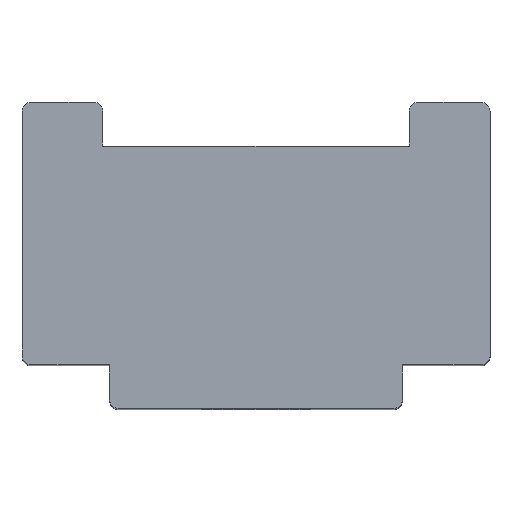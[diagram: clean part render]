
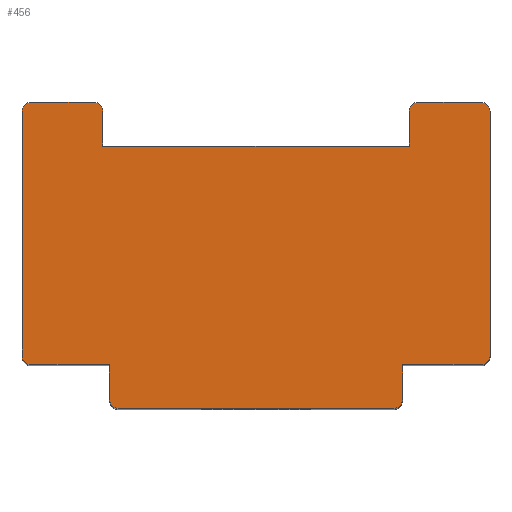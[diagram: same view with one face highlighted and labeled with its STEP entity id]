
A CAD part, top view. The second image highlights one B-rep face of the part: STEP entity #456.
In plain terms, the highlighted planar face has unit normal (0, 0, 1).
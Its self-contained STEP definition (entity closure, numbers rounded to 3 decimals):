
#47=PLANE('',#497);
#52=VECTOR('',#509,1.);
#67=VECTOR('',#544,1.);
#70=VECTOR('',#552,1.);
#73=VECTOR('',#560,1.);
#77=VECTOR('',#569,1.);
#80=VECTOR('',#577,1.);
#85=VECTOR('',#591,1.);
#86=VECTOR('',#599,1.);
#87=VECTOR('',#601,1.);
#88=VECTOR('',#603,1.);
#90=VECTOR('',#606,1.);
#91=VECTOR('',#608,1.);
#96=LINE('',#624,#52);
#111=LINE('',#670,#67);
#114=LINE('',#678,#70);
#117=LINE('',#686,#73);
#121=LINE('',#696,#77);
#124=LINE('',#704,#80);
#129=LINE('',#718,#85);
#130=LINE('',#725,#86);
#131=LINE('',#727,#87);
#132=LINE('',#729,#88);
#134=LINE('',#733,#90);
#135=LINE('',#735,#91);
#136=VERTEX_POINT('',#612);
#137=VERTEX_POINT('',#613);
#141=VERTEX_POINT('',#623);
#159=VERTEX_POINT('',#663);
#160=VERTEX_POINT('',#664);
#161=VERTEX_POINT('',#669);
#162=VERTEX_POINT('',#673);
#163=VERTEX_POINT('',#677);
#164=VERTEX_POINT('',#681);
#165=VERTEX_POINT('',#685);
#166=VERTEX_POINT('',#689);
#167=VERTEX_POINT('',#690);
#168=VERTEX_POINT('',#695);
#169=VERTEX_POINT('',#699);
#170=VERTEX_POINT('',#700);
#171=VERTEX_POINT('',#705);
#172=VERTEX_POINT('',#709);
#173=VERTEX_POINT('',#713);
#174=VERTEX_POINT('',#714);
#177=VERTEX_POINT('',#730);
#178=CIRCLE('',#458,0.254);
#187=CIRCLE('',#470,0.254);
#188=CIRCLE('',#473,0.254);
#189=CIRCLE('',#476,0.254);
#190=CIRCLE('',#479,0.254);
#191=CIRCLE('',#482,0.254);
#192=CIRCLE('',#485,0.254);
#193=CIRCLE('',#487,0.254);
#196=EDGE_CURVE('',#136,#137,#178,.T.);
#202=EDGE_CURVE('',#141,#136,#96,.T.);
#221=EDGE_CURVE('',#159,#160,#187,.T.);
#225=EDGE_CURVE('',#161,#159,#111,.T.);
#226=EDGE_CURVE('',#162,#161,#188,.T.);
#229=EDGE_CURVE('',#163,#162,#114,.T.);
#230=EDGE_CURVE('',#164,#163,#189,.T.);
#233=EDGE_CURVE('',#165,#164,#117,.T.);
#234=EDGE_CURVE('',#166,#167,#190,.T.);
#238=EDGE_CURVE('',#168,#166,#121,.T.);
#239=EDGE_CURVE('',#169,#170,#191,.T.);
#242=EDGE_CURVE('',#170,#171,#124,.T.);
#244=EDGE_CURVE('',#171,#172,#192,.T.);
#246=EDGE_CURVE('',#173,#174,#193,.T.);
#249=EDGE_CURVE('',#174,#165,#129,.T.);
#252=EDGE_CURVE('',#172,#168,#130,.T.);
#253=EDGE_CURVE('',#167,#173,#131,.T.);
#254=EDGE_CURVE('',#160,#177,#132,.T.);
#256=EDGE_CURVE('',#177,#141,#134,.T.);
#257=EDGE_CURVE('',#137,#169,#135,.T.);
#362=ORIENTED_EDGE('',*,*,#196,.F.);
#363=ORIENTED_EDGE('',*,*,#202,.F.);
#364=ORIENTED_EDGE('',*,*,#256,.F.);
#365=ORIENTED_EDGE('',*,*,#254,.F.);
#366=ORIENTED_EDGE('',*,*,#221,.F.);
#367=ORIENTED_EDGE('',*,*,#225,.F.);
#368=ORIENTED_EDGE('',*,*,#226,.F.);
#369=ORIENTED_EDGE('',*,*,#229,.F.);
#370=ORIENTED_EDGE('',*,*,#230,.F.);
#371=ORIENTED_EDGE('',*,*,#233,.F.);
#372=ORIENTED_EDGE('',*,*,#249,.F.);
#373=ORIENTED_EDGE('',*,*,#246,.F.);
#374=ORIENTED_EDGE('',*,*,#253,.F.);
#375=ORIENTED_EDGE('',*,*,#234,.F.);
#376=ORIENTED_EDGE('',*,*,#238,.F.);
#377=ORIENTED_EDGE('',*,*,#252,.F.);
#378=ORIENTED_EDGE('',*,*,#244,.F.);
#379=ORIENTED_EDGE('',*,*,#242,.F.);
#380=ORIENTED_EDGE('',*,*,#239,.F.);
#381=ORIENTED_EDGE('',*,*,#257,.F.);
#407=EDGE_LOOP('',(#362,#363,#364,#365,#366,#367,#368,#369,#370,#371,#372,
#373,#374,#375,#376,#377,#378,#379,#380,#381));
#433=FACE_BOUND('',#407,.T.);
#456=ADVANCED_FACE('',(#433),#47,.T.);
#458=AXIS2_PLACEMENT_3D('',#611,#500,#501);
#470=AXIS2_PLACEMENT_3D('',#662,#538,#539);
#473=AXIS2_PLACEMENT_3D('',#672,#547,#548);
#476=AXIS2_PLACEMENT_3D('',#680,#555,#556);
#479=AXIS2_PLACEMENT_3D('',#688,#563,#564);
#482=AXIS2_PLACEMENT_3D('',#698,#572,#573);
#485=AXIS2_PLACEMENT_3D('',#708,#581,#582);
#487=AXIS2_PLACEMENT_3D('',#712,#586,#587);
#497=AXIS2_PLACEMENT_3D('',#736,#609,$);
#500=DIRECTION('',(0.,0.,-1.));
#501=DIRECTION('',(-0.18,0.18,0.));
#509=DIRECTION('',(0.,1.,0.));
#538=DIRECTION('',(0.,0.,-1.));
#539=DIRECTION('',(0.18,0.18,0.));
#544=DIRECTION('',(1.,0.,0.));
#547=DIRECTION('',(0.,0.,-1.));
#548=DIRECTION('',(-0.18,0.18,0.));
#552=DIRECTION('',(0.,1.,0.));
#555=DIRECTION('',(0.,0.,-1.));
#556=DIRECTION('',(-0.18,-0.18,0.));
#560=DIRECTION('',(-1.,0.,0.));
#563=DIRECTION('',(0.,0.,-1.));
#564=DIRECTION('',(0.18,-0.18,0.));
#569=DIRECTION('',(0.,-1.,0.));
#572=DIRECTION('',(0.,0.,-1.));
#573=DIRECTION('',(0.18,0.18,0.));
#577=DIRECTION('',(0.,-1.,0.));
#581=DIRECTION('',(0.,0.,-1.));
#582=DIRECTION('',(0.18,-0.18,0.));
#586=DIRECTION('',(0.,0.,-1.));
#587=DIRECTION('',(-0.18,-0.18,0.));
#591=DIRECTION('',(0.,1.,0.));
#599=DIRECTION('',(-1.,0.,0.));
#601=DIRECTION('',(-1.,0.,0.));
#603=DIRECTION('',(0.,-1.,0.));
#606=DIRECTION('',(1.,0.,0.));
#608=DIRECTION('',(1.,0.,0.));
#609=DIRECTION('',(0.,0.,1.));
#611=CARTESIAN_POINT('',(4.699,7.366,9.525));
#612=CARTESIAN_POINT('',(4.445,7.366,9.525));
#613=CARTESIAN_POINT('',(4.699,7.62,9.525));
#623=CARTESIAN_POINT('',(4.445,6.35,9.525));
#624=CARTESIAN_POINT('',(4.445,7.62,9.525));
#662=CARTESIAN_POINT('',(-4.699,7.366,9.525));
#663=CARTESIAN_POINT('',(-4.699,7.62,9.525));
#664=CARTESIAN_POINT('',(-4.445,7.366,9.525));
#669=CARTESIAN_POINT('',(-6.541,7.62,9.525));
#670=CARTESIAN_POINT('',(-4.445,7.62,9.525));
#672=CARTESIAN_POINT('',(-6.541,7.366,9.525));
#673=CARTESIAN_POINT('',(-6.795,7.366,9.525));
#677=CARTESIAN_POINT('',(-6.795,0.254,9.525));
#678=CARTESIAN_POINT('',(-6.795,7.62,9.525));
#680=CARTESIAN_POINT('',(-6.541,0.254,9.525));
#681=CARTESIAN_POINT('',(-6.541,0.,9.525));
#685=CARTESIAN_POINT('',(-4.255,0.,9.525));
#686=CARTESIAN_POINT('',(-6.795,0.,9.525));
#688=CARTESIAN_POINT('',(4.001,-1.016,9.525));
#689=CARTESIAN_POINT('',(4.255,-1.016,9.525));
#690=CARTESIAN_POINT('',(4.001,-1.27,9.525));
#695=CARTESIAN_POINT('',(4.255,0.,9.525));
#696=CARTESIAN_POINT('',(4.255,-1.27,9.525));
#698=CARTESIAN_POINT('',(6.541,7.366,9.525));
#699=CARTESIAN_POINT('',(6.541,7.62,9.525));
#700=CARTESIAN_POINT('',(6.795,7.366,9.525));
#704=CARTESIAN_POINT('',(6.795,0.,9.525));
#705=CARTESIAN_POINT('',(6.795,0.254,9.525));
#708=CARTESIAN_POINT('',(6.541,0.254,9.525));
#709=CARTESIAN_POINT('',(6.541,0.,9.525));
#712=CARTESIAN_POINT('',(-4.001,-1.016,9.525));
#713=CARTESIAN_POINT('',(-4.001,-1.27,9.525));
#714=CARTESIAN_POINT('',(-4.255,-1.016,9.525));
#718=CARTESIAN_POINT('',(-4.255,0.,9.525));
#725=CARTESIAN_POINT('',(4.255,0.,9.525));
#727=CARTESIAN_POINT('',(-4.255,-1.27,9.525));
#729=CARTESIAN_POINT('',(-4.445,6.35,9.525));
#730=CARTESIAN_POINT('',(-4.445,6.35,9.525));
#733=CARTESIAN_POINT('',(4.445,6.35,9.525));
#735=CARTESIAN_POINT('',(6.795,7.62,9.525));
#736=CARTESIAN_POINT('',(0.,3.277,9.525));
